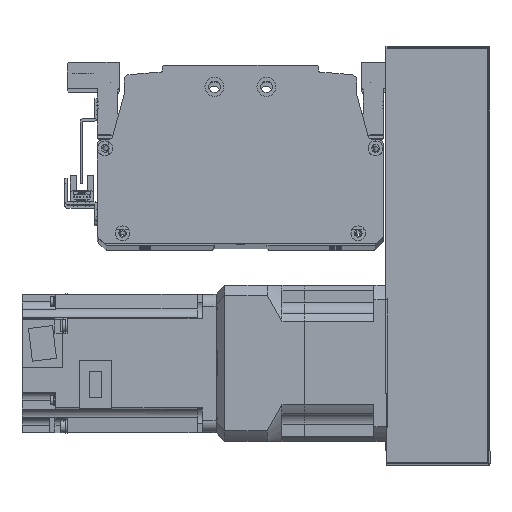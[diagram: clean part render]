
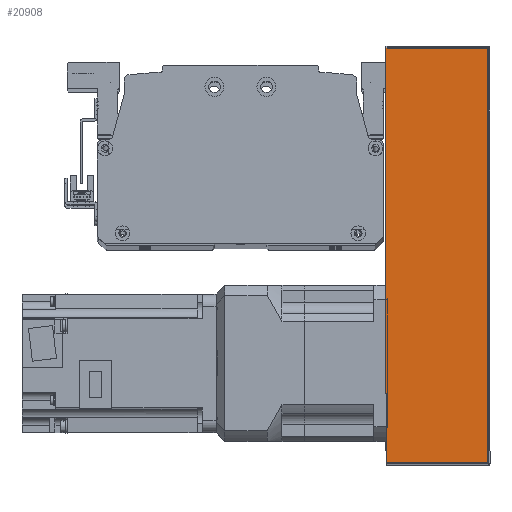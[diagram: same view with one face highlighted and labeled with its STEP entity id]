
A CAD part, top view. The second image highlights one B-rep face of the part: STEP entity #20908.
In plain terms, the highlighted planar face has unit normal (0, 0, 1) as drawn and (0, 1, 0) by its records, which use the part's own axes.
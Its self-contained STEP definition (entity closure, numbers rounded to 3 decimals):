
#564=PLANE('',#22800);
#1695=LINE('',#33269,#3355);
#1714=LINE('',#33353,#3374);
#1716=LINE('',#33363,#3376);
#1717=LINE('',#33365,#3377);
#3355=VECTOR('',#27074,10.);
#3374=VECTOR('',#27187,10.);
#3376=VECTOR('',#27201,10.);
#3377=VECTOR('',#27204,10.);
#5401=FACE_OUTER_BOUND('',#6869,.T.);
#6869=EDGE_LOOP('',(#16410,#16411,#16412,#16413));
#9773=VERTEX_POINT('',#33266);
#9774=VERTEX_POINT('',#33268);
#9791=VERTEX_POINT('',#33347);
#9794=VERTEX_POINT('',#33359);
#12149=EDGE_CURVE('',#9774,#9773,#1695,.T.);
#12192=EDGE_CURVE('',#9791,#9774,#1714,.T.);
#12197=EDGE_CURVE('',#9773,#9794,#1716,.T.);
#12198=EDGE_CURVE('',#9794,#9791,#1717,.T.);
#16410=ORIENTED_EDGE('',*,*,#12192,.T.);
#16411=ORIENTED_EDGE('',*,*,#12149,.T.);
#16412=ORIENTED_EDGE('',*,*,#12197,.T.);
#16413=ORIENTED_EDGE('',*,*,#12198,.T.);
#20908=ADVANCED_FACE('',(#5401),#564,.F.);
#22800=AXIS2_PLACEMENT_3D('',#33372,#27213,#27214);
#27074=DIRECTION('',(-1.,0.,0.));
#27187=DIRECTION('',(0.,0.,-1.));
#27201=DIRECTION('',(0.,0.,1.));
#27204=DIRECTION('',(1.,0.,0.));
#27213=DIRECTION('center_axis',(0.,-1.,0.));
#27214=DIRECTION('ref_axis',(-1.,0.,0.));
#33266=CARTESIAN_POINT('',(-120.,51.,-30.));
#33268=CARTESIAN_POINT('',(120.,51.,-30.));
#33269=CARTESIAN_POINT('',(-121.,51.,-30.));
#33347=CARTESIAN_POINT('',(120.,51.,29.));
#33353=CARTESIAN_POINT('',(120.,51.,0.));
#33359=CARTESIAN_POINT('',(-120.,51.,29.));
#33363=CARTESIAN_POINT('',(-120.,51.,0.));
#33365=CARTESIAN_POINT('',(60.5,51.,29.));
#33372=CARTESIAN_POINT('Origin',(121.,51.,0.));
